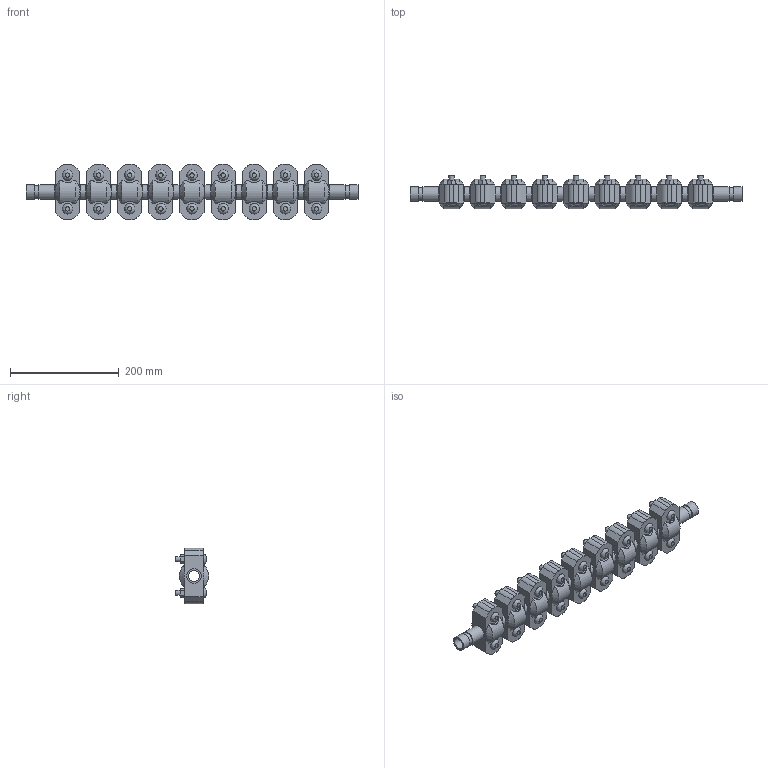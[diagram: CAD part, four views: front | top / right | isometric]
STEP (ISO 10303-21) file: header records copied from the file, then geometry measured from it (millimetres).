
FILE_DESCRIPTION(/* description */ ('VIC EXPANSION JOINT 9 COUPLINGS COMPRESSED STYLE 155 (OGS)','CAx-IF Rec.Pracs.---Representation and Presentation of Product Manufacturing Information (PMI)---4.0---2014-10-13'),/* implementation_level */ '2;1');
FILE_NAME(/* name */ 'C:\Users\kkamble\AppData\Roaming\Autodesk\ApplicationPlugins\Victaulic.Temp\A901\Victaulic_IPS_Expansion Joint_Compressed_9 Couplings_Style 155 (OGS)_0.75 (20).stp',/* time_stamp */ '2021-06-27T00:37:48+02:00',/* author */ ('kkamble'),/* organization */ ('Victaulic'),/* preprocessor_version */ 'ST-DEVELOPER v17.2',/* originating_system */ 'Autodesk Inventor 2019',/* authorisation */ '');
FILE_SCHEMA (('AP242_MANAGED_MODEL_BASED_3D_ENGINEERING_MIM_LF { 1 0 10303 442 1 1 4 }'));
Length unit declared in the file: inch
Products named in the file (4): 155-0.75; Nipple-0.75; Nipple-0.75_1; 077-0.75
Assembly tree (19 placements, depth 2):
  155-0.75
    Nipple-0.75  x2
    Nipple-0.75_1  x8
    077-0.75  x9
Bounding box: 609.6 x 61.1 x 101.6 mm (x, y, z)
Volume: 1380311.3 mm3; surface area: 342735.1 mm2
Topology: 19 solids, 37 shells, 633 faces, 1551 edges, 1086 vertices
Faces by surface type: plane 366, cylinder 213, cone 36, bspline 18
Full cylindrical faces by diameter (mm): 9.525 x36, 11.43 x18, 20.93 x10, 23.825 x20, 26.67 x39
Entity records: 2971 total; most frequent: CARTESIAN_POINT 581, DIRECTION 483, ORIENTED_EDGE 398, EDGE_CURVE 199, AXIS2_PLACEMENT_3D 194, VERTEX_POINT 142, EDGE_LOOP 105, LINE 95
